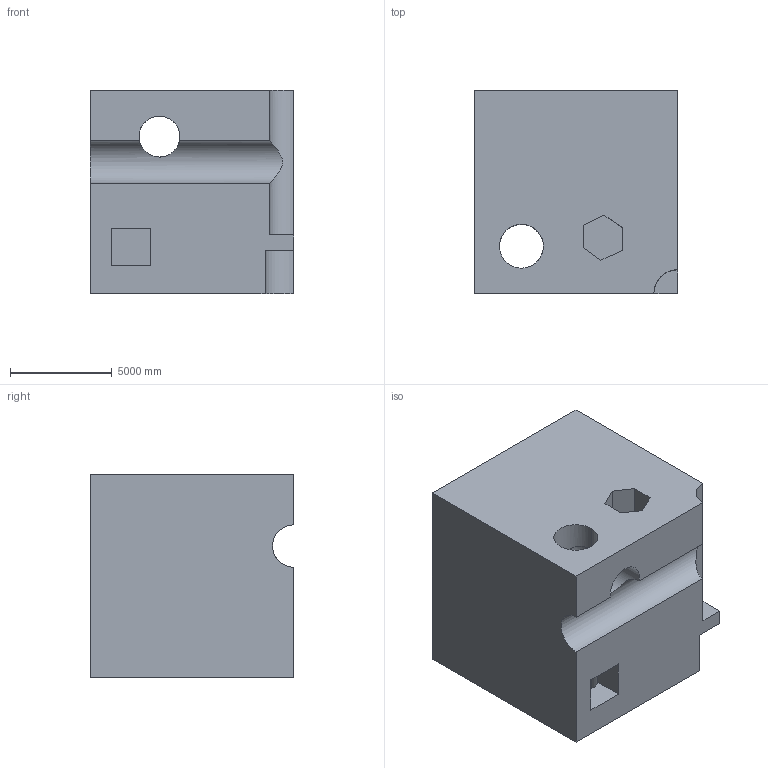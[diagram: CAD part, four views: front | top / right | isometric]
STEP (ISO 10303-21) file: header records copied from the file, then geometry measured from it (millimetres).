
FILE_DESCRIPTION (( 'STEP AP203' ), '1' );
FILE_NAME ('700.STEP', '2022-08-04T15:38:33', ( 'user' ), ( '' ), 'SwSTEP 2.0', 'SolidWorks 2021', '' );
FILE_SCHEMA (( 'CONFIG_CONTROL_DESIGN' ));
Length unit declared in the file: centimetre
Products named in the file (1): 700
Bounding box: 10000 x 10000 x 10000 mm (x, y, z)
Volume: 853805711153.5 mm3; surface area: 803816866.4 mm2
Topology: 1 solids, 1 shells, 33 faces, 99 edges, 66 vertices
Faces by surface type: plane 25, cylinder 8
Entity records: 1970 total; most frequent: CARTESIAN_POINT 974, ORIENTED_EDGE 198, DIRECTION 181, EDGE_CURVE 99, LINE 75, VECTOR 75, VERTEX_POINT 66, AXIS2_PLACEMENT_3D 53
